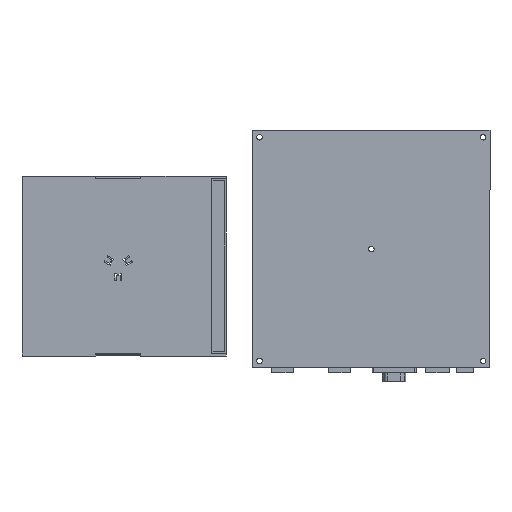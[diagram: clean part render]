
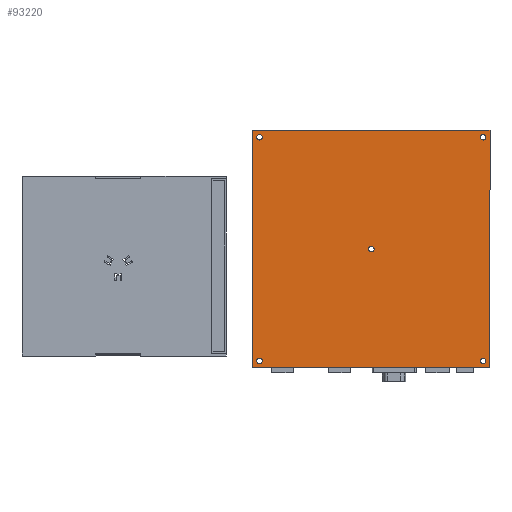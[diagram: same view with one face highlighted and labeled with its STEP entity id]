
A CAD part, front view. The second image highlights one B-rep face of the part: STEP entity #93220.
In plain terms, the highlighted planar face has unit normal (0, -1, 0).
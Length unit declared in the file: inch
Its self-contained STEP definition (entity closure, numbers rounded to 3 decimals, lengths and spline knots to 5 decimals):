
#830 = CARTESIAN_POINT ( 'NONE',  ( 3.0625, 0., 3.0625 ) ) ;
#1573 = DIRECTION ( 'NONE',  ( 0., 0., 1. ) ) ;
#2319 = VERTEX_POINT ( 'NONE', #95766 ) ;
#3387 = CARTESIAN_POINT ( 'NONE',  ( -3.0625, 0., 3.0625 ) ) ;
#3499 = DIRECTION ( 'NONE',  ( 0., 0., 1. ) ) ;
#3615 = ORIENTED_EDGE ( 'NONE', *, *, #91098, .F. ) ;
#4241 = AXIS2_PLACEMENT_3D ( 'NONE', #3387, #60212, #11547 ) ;
#4288 = EDGE_CURVE ( 'NONE', #87725, #14834, #58288, .T. ) ;
#4934 = FACE_OUTER_BOUND ( 'NONE', #64697, .T. ) ;
#6301 = VERTEX_POINT ( 'NONE', #56408 ) ;
#8990 = DIRECTION ( 'NONE',  ( 0., 0., 1. ) ) ;
#9358 = DIRECTION ( 'NONE',  ( 0., 0., -1. ) ) ;
#11547 = DIRECTION ( 'NONE',  ( 0., 0., 1. ) ) ;
#11626 = EDGE_CURVE ( 'NONE', #37251, #63591, #60192, .T. ) ;
#12784 = CARTESIAN_POINT ( 'NONE',  ( 3.0625, 0., 3.1375 ) ) ;
#13513 = VERTEX_POINT ( 'NONE', #73497 ) ;
#13604 = DIRECTION ( 'NONE',  ( 0., 1., 0. ) ) ;
#14834 = VERTEX_POINT ( 'NONE', #12784 ) ;
#15206 = ORIENTED_EDGE ( 'NONE', *, *, #60346, .T. ) ;
#18290 = ORIENTED_EDGE ( 'NONE', *, *, #45360, .F. ) ;
#18870 = VERTEX_POINT ( 'NONE', #37914 ) ;
#19289 = CARTESIAN_POINT ( 'NONE',  ( 3.0625, 0., 2.9875 ) ) ;
#22231 = DIRECTION ( 'NONE',  ( 0., 1., 0. ) ) ;
#22812 = CARTESIAN_POINT ( 'NONE',  ( 3.0625, 0., -2.9875 ) ) ;
#23529 = VERTEX_POINT ( 'NONE', #43187 ) ;
#23929 = EDGE_CURVE ( 'NONE', #14834, #87725, #66891, .T. ) ;
#24945 = CIRCLE ( 'NONE', #43593, 0.075 ) ;
#26021 = AXIS2_PLACEMENT_3D ( 'NONE', #43208, #99994, #51375 ) ;
#26479 = PLANE ( 'NONE',  #31763 ) ;
#26954 = VERTEX_POINT ( 'NONE', #75900 ) ;
#26981 = VERTEX_POINT ( 'NONE', #27271 ) ;
#27271 = CARTESIAN_POINT ( 'NONE',  ( -3.0625, 0., -2.9875 ) ) ;
#27623 = CARTESIAN_POINT ( 'NONE',  ( -3.0625, 0., -3.0625 ) ) ;
#29280 = LINE ( 'NONE', #66187, #91571 ) ;
#29946 = CARTESIAN_POINT ( 'NONE',  ( -3.0625, 0., 3.1375 ) ) ;
#30075 = CIRCLE ( 'NONE', #4241, 0.075 ) ;
#31093 = CARTESIAN_POINT ( 'NONE',  ( 3.0625, 0., -3.0625 ) ) ;
#31568 = ORIENTED_EDGE ( 'NONE', *, *, #34482, .T. ) ;
#31763 = AXIS2_PLACEMENT_3D ( 'NONE', #83299, #91490, #42798 ) ;
#33199 = CARTESIAN_POINT ( 'NONE',  ( 3.25, 0., -3.25 ) ) ;
#33225 = ORIENTED_EDGE ( 'NONE', *, *, #67073, .T. ) ;
#34482 = EDGE_CURVE ( 'NONE', #83047, #26954, #67789, .T. ) ;
#35781 = DIRECTION ( 'NONE',  ( 0., 0., 1. ) ) ;
#37251 = VERTEX_POINT ( 'NONE', #39217 ) ;
#37914 = CARTESIAN_POINT ( 'NONE',  ( -3.0625, 0., -3.1375 ) ) ;
#38175 = EDGE_LOOP ( 'NONE', ( #40797, #31568 ) ) ;
#38272 = EDGE_CURVE ( 'NONE', #13513, #84310, #29280, .T. ) ;
#38303 = EDGE_CURVE ( 'NONE', #2319, #23529, #89010, .T. ) ;
#38470 = ORIENTED_EDGE ( 'NONE', *, *, #83027, .T. ) ;
#38914 = CARTESIAN_POINT ( 'NONE',  ( -3.25, 0., 3.25 ) ) ;
#39152 = CARTESIAN_POINT ( 'NONE',  ( -3.0625, 0., -3.0625 ) ) ;
#39217 = CARTESIAN_POINT ( 'NONE',  ( 0., 0., 0.075 ) ) ;
#39227 = DIRECTION ( 'NONE',  ( 0., 0., 1. ) ) ;
#39762 = DIRECTION ( 'NONE',  ( 0., 1., 0. ) ) ;
#40797 = ORIENTED_EDGE ( 'NONE', *, *, #58619, .T. ) ;
#40938 = EDGE_LOOP ( 'NONE', ( #105005, #88044 ) ) ;
#41471 = EDGE_LOOP ( 'NONE', ( #98316, #95137 ) ) ;
#42038 = CARTESIAN_POINT ( 'NONE',  ( -3.25, 0., -3.25 ) ) ;
#42798 = DIRECTION ( 'NONE',  ( 0., 0., 1. ) ) ;
#43187 = CARTESIAN_POINT ( 'NONE',  ( -3.25, 0., 3.25 ) ) ;
#43208 = CARTESIAN_POINT ( 'NONE',  ( 0., 0., 0. ) ) ;
#43593 = AXIS2_PLACEMENT_3D ( 'NONE', #62276, #13604, #70410 ) ;
#45061 = CIRCLE ( 'NONE', #77788, 0.075 ) ;
#45360 = EDGE_CURVE ( 'NONE', #23529, #13513, #57646, .T. ) ;
#45607 = FACE_BOUND ( 'NONE', #40938, .T. ) ;
#47129 = DIRECTION ( 'NONE',  ( 1., 0., 0. ) ) ;
#47357 = DIRECTION ( 'NONE',  ( 0., 0., 1. ) ) ;
#48137 = FACE_BOUND ( 'NONE', #50469, .T. ) ;
#50329 = DIRECTION ( 'NONE',  ( -1., 0., 0. ) ) ;
#50469 = EDGE_LOOP ( 'NONE', ( #38470, #15206 ) ) ;
#51375 = DIRECTION ( 'NONE',  ( 0., 0., 1. ) ) ;
#51487 = VERTEX_POINT ( 'NONE', #22812 ) ;
#52135 = DIRECTION ( 'NONE',  ( 0., 1., 0. ) ) ;
#53534 = VECTOR ( 'NONE', #50329, 39.37008 ) ;
#56408 = CARTESIAN_POINT ( 'NONE',  ( 3.0625, 0., -3.1375 ) ) ;
#57646 = LINE ( 'NONE', #38914, #76695 ) ;
#57655 = DIRECTION ( 'NONE',  ( 0., 1., 0. ) ) ;
#58288 = CIRCLE ( 'NONE', #83426, 0.075 ) ;
#58536 = CARTESIAN_POINT ( 'NONE',  ( -3.25, 0., -3.25 ) ) ;
#58619 = EDGE_CURVE ( 'NONE', #26954, #83047, #30075, .T. ) ;
#59788 = AXIS2_PLACEMENT_3D ( 'NONE', #27623, #84428, #35781 ) ;
#60192 = CIRCLE ( 'NONE', #100487, 0.075 ) ;
#60208 = AXIS2_PLACEMENT_3D ( 'NONE', #830, #57655, #8990 ) ;
#60212 = DIRECTION ( 'NONE',  ( 0., 1., 0. ) ) ;
#60230 = EDGE_LOOP ( 'NONE', ( #33225, #96994 ) ) ;
#60346 = EDGE_CURVE ( 'NONE', #51487, #6301, #45061, .T. ) ;
#60719 = CIRCLE ( 'NONE', #78887, 0.075 ) ;
#62276 = CARTESIAN_POINT ( 'NONE',  ( 3.0625, 0., -3.0625 ) ) ;
#63591 = VERTEX_POINT ( 'NONE', #91551 ) ;
#64697 = EDGE_LOOP ( 'NONE', ( #76499, #3615, #77957, #18290 ) ) ;
#66187 = CARTESIAN_POINT ( 'NONE',  ( 3.25, 0., -3.25 ) ) ;
#66891 = CIRCLE ( 'NONE', #60208, 0.075 ) ;
#67073 = EDGE_CURVE ( 'NONE', #18870, #26981, #71199, .T. ) ;
#67240 = FACE_BOUND ( 'NONE', #38175, .T. ) ;
#67400 = VECTOR ( 'NONE', #1573, 39.37008 ) ;
#67789 = CIRCLE ( 'NONE', #85243, 0.075 ) ;
#70410 = DIRECTION ( 'NONE',  ( 0., 0., 1. ) ) ;
#70835 = CARTESIAN_POINT ( 'NONE',  ( -3.0625, 0., 3.0625 ) ) ;
#71199 = CIRCLE ( 'NONE', #59788, 0.075 ) ;
#72309 = FACE_BOUND ( 'NONE', #41471, .T. ) ;
#73497 = CARTESIAN_POINT ( 'NONE',  ( 3.25, 0., 3.25 ) ) ;
#75900 = CARTESIAN_POINT ( 'NONE',  ( -3.0625, 0., 2.9875 ) ) ;
#76499 = ORIENTED_EDGE ( 'NONE', *, *, #38303, .F. ) ;
#76695 = VECTOR ( 'NONE', #47129, 39.37008 ) ;
#77788 = AXIS2_PLACEMENT_3D ( 'NONE', #31093, #87916, #39227 ) ;
#77957 = ORIENTED_EDGE ( 'NONE', *, *, #38272, .F. ) ;
#78887 = AXIS2_PLACEMENT_3D ( 'NONE', #39152, #95990, #47357 ) ;
#79028 = DIRECTION ( 'NONE',  ( 0., 0., 1. ) ) ;
#81769 = EDGE_CURVE ( 'NONE', #26981, #18870, #60719, .T. ) ;
#83027 = EDGE_CURVE ( 'NONE', #6301, #51487, #24945, .T. ) ;
#83047 = VERTEX_POINT ( 'NONE', #29946 ) ;
#83299 = CARTESIAN_POINT ( 'NONE',  ( -3.25, 0., 3.25 ) ) ;
#83426 = AXIS2_PLACEMENT_3D ( 'NONE', #100765, #52135, #3499 ) ;
#84310 = VERTEX_POINT ( 'NONE', #33199 ) ;
#84428 = DIRECTION ( 'NONE',  ( 0., 1., 0. ) ) ;
#85243 = AXIS2_PLACEMENT_3D ( 'NONE', #70835, #22231, #79028 ) ;
#85250 = EDGE_CURVE ( 'NONE', #63591, #37251, #100841, .T. ) ;
#87725 = VERTEX_POINT ( 'NONE', #19289 ) ;
#87916 = DIRECTION ( 'NONE',  ( 0., 1., 0. ) ) ;
#88044 = ORIENTED_EDGE ( 'NONE', *, *, #11626, .T. ) ;
#88449 = CARTESIAN_POINT ( 'NONE',  ( 0., 0., 0. ) ) ;
#88846 = FACE_BOUND ( 'NONE', #60230, .T. ) ;
#89010 = LINE ( 'NONE', #42038, #67400 ) ;
#91098 = EDGE_CURVE ( 'NONE', #84310, #2319, #96727, .T. ) ;
#91490 = DIRECTION ( 'NONE',  ( 0., 1., 0. ) ) ;
#91551 = CARTESIAN_POINT ( 'NONE',  ( 0., 0., -0.075 ) ) ;
#91571 = VECTOR ( 'NONE', #9358, 39.37008 ) ;
#93220 = ADVANCED_FACE ( 'NONE', ( #72309, #48137, #4934, #88846, #67240, #45607 ), #26479, .F. ) ;
#95137 = ORIENTED_EDGE ( 'NONE', *, *, #23929, .T. ) ;
#95766 = CARTESIAN_POINT ( 'NONE',  ( -3.25, 0., -3.25 ) ) ;
#95990 = DIRECTION ( 'NONE',  ( 0., 1., 0. ) ) ;
#96604 = DIRECTION ( 'NONE',  ( 0., 0., 1. ) ) ;
#96727 = LINE ( 'NONE', #58536, #53534 ) ;
#96994 = ORIENTED_EDGE ( 'NONE', *, *, #81769, .T. ) ;
#98316 = ORIENTED_EDGE ( 'NONE', *, *, #4288, .T. ) ;
#99994 = DIRECTION ( 'NONE',  ( 0., 1., 0. ) ) ;
#100487 = AXIS2_PLACEMENT_3D ( 'NONE', #88449, #39762, #96604 ) ;
#100765 = CARTESIAN_POINT ( 'NONE',  ( 3.0625, 0., 3.0625 ) ) ;
#100841 = CIRCLE ( 'NONE', #26021, 0.075 ) ;
#105005 = ORIENTED_EDGE ( 'NONE', *, *, #85250, .T. ) ;
